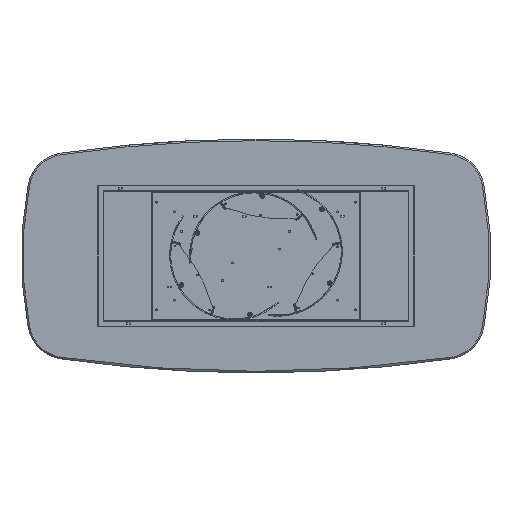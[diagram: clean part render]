
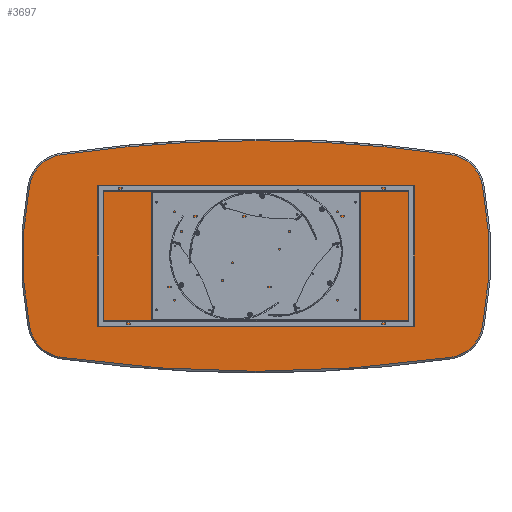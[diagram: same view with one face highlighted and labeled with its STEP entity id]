
A CAD part, front view. The second image highlights one B-rep face of the part: STEP entity #3697.
In plain terms, the highlighted planar face has unit normal (0, -1, 0).
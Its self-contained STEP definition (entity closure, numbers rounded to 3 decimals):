
#256 = ORIENTED_EDGE ( 'NONE', *, *, #10222, .T. ) ;
#325 = DIRECTION ( 'NONE',  ( 0., 0., 1. ) ) ;
#408 = DIRECTION ( 'NONE',  ( 0., -1., 0. ) ) ;
#435 = CARTESIAN_POINT ( 'NONE',  ( 0., 0., 6355. ) ) ;
#1225 = ORIENTED_EDGE ( 'NONE', *, *, #14004, .T. ) ;
#1228 = CARTESIAN_POINT ( 'NONE',  ( -990.878, 0., 515.919 ) ) ;
#1314 = CARTESIAN_POINT ( 'NONE',  ( 0., 0., 587. ) ) ;
#1327 = EDGE_CURVE ( 'NONE', #1692, #8948, #21706, .T. ) ;
#1517 = ORIENTED_EDGE ( 'NONE', *, *, #10790, .T. ) ;
#1602 = AXIS2_PLACEMENT_3D ( 'NONE', #7347, #20976, #8909 ) ;
#1645 = AXIS2_PLACEMENT_3D ( 'NONE', #17584, #408, #15887 ) ;
#1647 = CARTESIAN_POINT ( 'NONE',  ( -963.472, 0., -325.885 ) ) ;
#1692 = VERTEX_POINT ( 'NONE', #13966 ) ;
#1983 = AXIS2_PLACEMENT_3D ( 'NONE', #435, #20943, #325 ) ;
#2131 = PLANE ( 'NONE',  #1602 ) ;
#2200 = EDGE_LOOP ( 'NONE', ( #7935, #5459, #1517, #1225, #5568, #3376, #19382, #256, #5765 ) ) ;
#2437 = CIRCLE ( 'NONE', #4597, 1892. ) ;
#2567 = AXIS2_PLACEMENT_3D ( 'NONE', #1647, #9884, #6460 ) ;
#2617 = EDGE_CURVE ( 'NONE', #21923, #13080, #18614, .T. ) ;
#2694 = VERTEX_POINT ( 'NONE', #10211 ) ;
#2975 = AXIS2_PLACEMENT_3D ( 'NONE', #6961, #19034, #3522 ) ;
#3374 = EDGE_CURVE ( 'NONE', #5977, #1692, #21840, .T. ) ;
#3376 = ORIENTED_EDGE ( 'NONE', *, *, #1327, .T. ) ;
#3522 = DIRECTION ( 'NONE',  ( 0., 0., 1. ) ) ;
#3697 = ADVANCED_FACE ( 'NONE', ( #17421 ), #2131, .F. ) ;
#4280 = CARTESIAN_POINT ( 'NONE',  ( 1151.911, 0., -362.691 ) ) ;
#4597 = AXIS2_PLACEMENT_3D ( 'NONE', #10526, #9089, #10760 ) ;
#5167 = AXIS2_PLACEMENT_3D ( 'NONE', #19734, #9228, #6228 ) ;
#5169 = VERTEX_POINT ( 'NONE', #4280 ) ;
#5459 = ORIENTED_EDGE ( 'NONE', *, *, #11209, .T. ) ;
#5568 = ORIENTED_EDGE ( 'NONE', *, *, #3374, .T. ) ;
#5765 = ORIENTED_EDGE ( 'NONE', *, *, #6246, .T. ) ;
#5977 = VERTEX_POINT ( 'NONE', #15677 ) ;
#6080 = DIRECTION ( 'NONE',  ( 0., 0., 1. ) ) ;
#6228 = DIRECTION ( 'NONE',  ( 0., 0., 1. ) ) ;
#6246 = EDGE_CURVE ( 'NONE', #2694, #21923, #14084, .T. ) ;
#6460 = DIRECTION ( 'NONE',  ( 0., 0., 1. ) ) ;
#6961 = CARTESIAN_POINT ( 'NONE',  ( 963.472, 0., 325.885 ) ) ;
#7347 = CARTESIAN_POINT ( 'NONE',  ( -352.5, 0., 3177.5 ) ) ;
#7358 = EDGE_CURVE ( 'NONE', #8948, #20987, #11248, .T. ) ;
#7935 = ORIENTED_EDGE ( 'NONE', *, *, #2617, .T. ) ;
#8018 = CARTESIAN_POINT ( 'NONE',  ( -990.878, 0., -515.919 ) ) ;
#8396 = DIRECTION ( 'NONE',  ( 0., -1., 0. ) ) ;
#8504 = DIRECTION ( 'NONE',  ( 0., 0., 1. ) ) ;
#8712 = CIRCLE ( 'NONE', #15133, 192. ) ;
#8909 = DIRECTION ( 'NONE',  ( 0., 0., 1. ) ) ;
#8948 = VERTEX_POINT ( 'NONE', #1314 ) ;
#9089 = DIRECTION ( 'NONE',  ( 0., -1., 0. ) ) ;
#9228 = DIRECTION ( 'NONE',  ( 0., -1., 0. ) ) ;
#9884 = DIRECTION ( 'NONE',  ( 0., -1., 0. ) ) ;
#10211 = CARTESIAN_POINT ( 'NONE',  ( -1151.911, 0., 362.691 ) ) ;
#10222 = EDGE_CURVE ( 'NONE', #20987, #2694, #21191, .T. ) ;
#10526 = CARTESIAN_POINT ( 'NONE',  ( -705., 0., 0. ) ) ;
#10760 = DIRECTION ( 'NONE',  ( 0., 0., 1. ) ) ;
#10790 = EDGE_CURVE ( 'NONE', #15306, #5169, #8712, .T. ) ;
#10866 = DIRECTION ( 'NONE',  ( 0., 0., 1. ) ) ;
#11209 = EDGE_CURVE ( 'NONE', #13080, #15306, #19095, .T. ) ;
#11248 = CIRCLE ( 'NONE', #1645, 6942. ) ;
#12894 = DIRECTION ( 'NONE',  ( 0., -1., 0. ) ) ;
#13080 = VERTEX_POINT ( 'NONE', #8018 ) ;
#13966 = CARTESIAN_POINT ( 'NONE',  ( 990.878, 0., 515.919 ) ) ;
#14004 = EDGE_CURVE ( 'NONE', #5169, #5977, #2437, .T. ) ;
#14084 = CIRCLE ( 'NONE', #17308, 1892. ) ;
#15133 = AXIS2_PLACEMENT_3D ( 'NONE', #17119, #8396, #8504 ) ;
#15306 = VERTEX_POINT ( 'NONE', #18955 ) ;
#15677 = CARTESIAN_POINT ( 'NONE',  ( 1151.911, 0., 362.691 ) ) ;
#15887 = DIRECTION ( 'NONE',  ( 0., 0., 1. ) ) ;
#16325 = DIRECTION ( 'NONE',  ( 0., -1., 0. ) ) ;
#16541 = CARTESIAN_POINT ( 'NONE',  ( 0., 0., -6355. ) ) ;
#17119 = CARTESIAN_POINT ( 'NONE',  ( 963.472, 0., -325.885 ) ) ;
#17308 = AXIS2_PLACEMENT_3D ( 'NONE', #21367, #12894, #10866 ) ;
#17421 = FACE_OUTER_BOUND ( 'NONE', #2200, .T. ) ;
#17584 = CARTESIAN_POINT ( 'NONE',  ( 0., 0., -6355. ) ) ;
#18614 = CIRCLE ( 'NONE', #2567, 192. ) ;
#18955 = CARTESIAN_POINT ( 'NONE',  ( 990.878, 0., -515.919 ) ) ;
#19034 = DIRECTION ( 'NONE',  ( 0., -1., 0. ) ) ;
#19095 = CIRCLE ( 'NONE', #1983, 6942. ) ;
#19382 = ORIENTED_EDGE ( 'NONE', *, *, #7358, .T. ) ;
#19734 = CARTESIAN_POINT ( 'NONE',  ( -963.472, 0., 325.885 ) ) ;
#20943 = DIRECTION ( 'NONE',  ( 0., -1., 0. ) ) ;
#20976 = DIRECTION ( 'NONE',  ( 0., 1., 0. ) ) ;
#20987 = VERTEX_POINT ( 'NONE', #1228 ) ;
#21191 = CIRCLE ( 'NONE', #5167, 192. ) ;
#21323 = CARTESIAN_POINT ( 'NONE',  ( -1151.911, 0., -362.691 ) ) ;
#21367 = CARTESIAN_POINT ( 'NONE',  ( 705., 0., 0. ) ) ;
#21696 = AXIS2_PLACEMENT_3D ( 'NONE', #16541, #16325, #6080 ) ;
#21706 = CIRCLE ( 'NONE', #21696, 6942. ) ;
#21840 = CIRCLE ( 'NONE', #2975, 192. ) ;
#21923 = VERTEX_POINT ( 'NONE', #21323 ) ;
